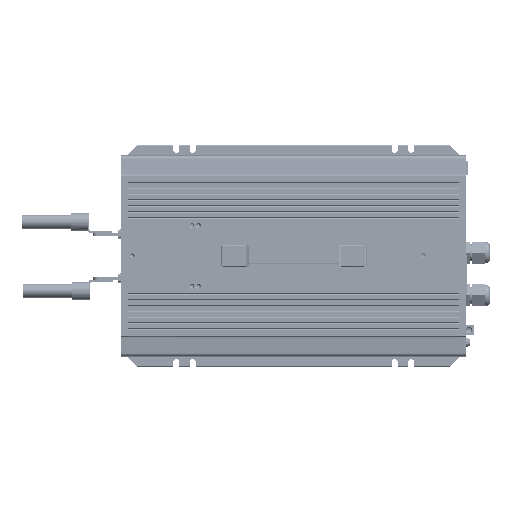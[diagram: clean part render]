
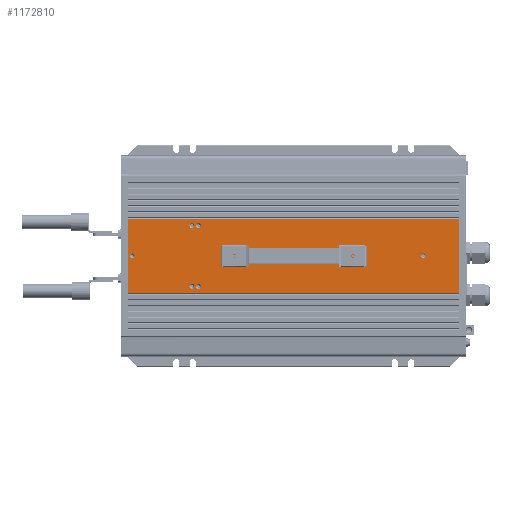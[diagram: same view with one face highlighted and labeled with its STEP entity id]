
A CAD part, top view. The second image highlights one B-rep face of the part: STEP entity #1172810.
In plain terms, the highlighted planar face has unit normal (0, 0, 1) as drawn and (0, 1, 0) by its records, which use the part's own axes.
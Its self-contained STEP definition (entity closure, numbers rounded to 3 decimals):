
#1150130=CARTESIAN_POINT('',(2078.449,98.104,-63.1));
#1150140=VERTEX_POINT('',#1150130);
#1150170=CARTESIAN_POINT('',(1988.299,98.104,-63.1));
#1150180=DIRECTION('',(1.,0.,0.));
#1150190=VECTOR('',#1150180,90.15);
#1150200=LINE('',#1150170,#1150190);
#1150210=CARTESIAN_POINT('',(1988.299,98.104,-63.1));
#1150220=VERTEX_POINT('',#1150210);
#1150230=EDGE_CURVE('',#1150220,#1150140,#1150200,.T.);
#1159110=CARTESIAN_POINT('',(1988.299,98.104,340.9));
#1159120=VERTEX_POINT('',#1159110);
#1159150=CARTESIAN_POINT('',(2078.449,98.104,340.9));
#1159160=DIRECTION('',(-1.,0.,0.));
#1159170=VECTOR('',#1159160,90.15);
#1159180=LINE('',#1159150,#1159170);
#1159190=CARTESIAN_POINT('',(2078.449,98.104,340.9));
#1159200=VERTEX_POINT('',#1159190);
#1159210=EDGE_CURVE('',#1159200,#1159120,#1159180,.T.);
#1170970=CARTESIAN_POINT('',(2036.374,98.104,296.9));
#1170980=VERTEX_POINT('',#1170970);
#1171010=CARTESIAN_POINT('',(2033.374,98.104,296.9));
#1171020=DIRECTION('',(0.,-1.,0.));
#1171030=DIRECTION('',(1.,0.,0.));
#1171040=AXIS2_PLACEMENT_3D('',#1171010,#1171020,#1171030);
#1171050=CIRCLE('',#1171040,3.);
#1171060=CARTESIAN_POINT('',(2030.374,98.104,296.9));
#1171070=VERTEX_POINT('',#1171060);
#1171080=EDGE_CURVE('',#1170980,#1171070,#1171050,.T.);
#1171460=CARTESIAN_POINT('',(2028.721,98.104,122.9));
#1171470=DIRECTION('',(0.,-1.,0.));
#1171480=DIRECTION('',(1.,0.,0.));
#1171490=AXIS2_PLACEMENT_3D('',#1171460,#1171470,#1171480);
#1171500=PLANE('',#1171490);
#1171510=CARTESIAN_POINT('',(2033.376,98.104,210.9));
#1171520=DIRECTION('',(0.,1.,0.));
#1171530=DIRECTION('',(0.,0.,1.));
#1171540=AXIS2_PLACEMENT_3D('',#1171510,#1171520,#1171530);
#1171550=CIRCLE('',#1171540,1.6);
#1171560=CARTESIAN_POINT('',(2033.376,98.104,212.5));
#1171570=VERTEX_POINT('',#1171560);
#1171580=CARTESIAN_POINT('',(2033.376,98.104,209.3));
#1171590=VERTEX_POINT('',#1171580);
#1171600=EDGE_CURVE('',#1171570,#1171590,#1171550,.T.);
#1171610=ORIENTED_EDGE('',*,*,#1171600,.F.);
#1171620=EDGE_CURVE('',#1171590,#1171570,#1171550,.T.);
#1171630=ORIENTED_EDGE('',*,*,#1171620,.F.);
#1171640=EDGE_LOOP('',(#1171630,#1171610));
#1171650=FACE_BOUND('',#1171640,.T.);
#1171660=CARTESIAN_POINT('',(1996.284,98.104,22.949
));
#1171670=DIRECTION('',(0.,1.,0.));
#1171680=DIRECTION('',(1.,0.,0.));
#1171690=AXIS2_PLACEMENT_3D('',#1171660,#1171670,#1171680);
#1171700=CIRCLE('',#1171690,3.);
#1171710=CARTESIAN_POINT('',(1999.284,98.104,22.949
));
#1171720=VERTEX_POINT('',#1171710);
#1171730=CARTESIAN_POINT('',(1993.284,98.104,22.949
));
#1171740=VERTEX_POINT('',#1171730);
#1171750=EDGE_CURVE('',#1171720,#1171740,#1171700,.T.);
#1171760=ORIENTED_EDGE('',*,*,#1171750,.F.);
#1171770=EDGE_CURVE('',#1171740,#1171720,#1171700,.T.);
#1171780=ORIENTED_EDGE('',*,*,#1171770,.F.);
#1171790=EDGE_LOOP('',(#1171780,#1171760));
#1171800=FACE_BOUND('',#1171790,.T.);
#1171810=EDGE_CURVE('',#1171070,#1170980,#1171050,.T.);
#1171820=ORIENTED_EDGE('',*,*,#1171810,.T.);
#1171830=ORIENTED_EDGE('',*,*,#1171080,.T.);
#1171840=EDGE_LOOP('',(#1171830,#1171820));
#1171850=FACE_BOUND('',#1171840,.T.);
#1171860=CARTESIAN_POINT('',(2033.376,98.104,-57.6));
#1171870=DIRECTION('',(0.,-1.,0.));
#1171880=DIRECTION('',(-1.,0.,0.));
#1171890=AXIS2_PLACEMENT_3D('',#1171860,#1171870,#1171880);
#1171900=CIRCLE('',#1171890,3.);
#1171910=CARTESIAN_POINT('',(2036.376,98.104,
-57.6));
#1171920=VERTEX_POINT('',#1171910);
#1171930=CARTESIAN_POINT('',(2030.376,98.104,
-57.6));
#1171940=VERTEX_POINT('',#1171930);
#1171950=EDGE_CURVE('',#1171920,#1171940,#1171900,.T.);
#1171960=ORIENTED_EDGE('',*,*,#1171950,.T.);
#1171970=EDGE_CURVE('',#1171940,#1171920,#1171900,.T.);
#1171980=ORIENTED_EDGE('',*,*,#1171970,.T.);
#1171990=EDGE_LOOP('',(#1171980,#1171960));
#1172000=FACE_BOUND('',#1171990,.T.);
#1172010=CARTESIAN_POINT('',(2070.318,98.104,14.949));
#1172020=DIRECTION('',(0.,1.,0.));
#1172030=DIRECTION('',(1.,0.,0.));
#1172040=AXIS2_PLACEMENT_3D('',#1172010,#1172020,#1172030);
#1172050=CIRCLE('',#1172040,3.);
#1172060=CARTESIAN_POINT('',(2067.318,98.104,14.949));
#1172070=VERTEX_POINT('',#1172060);
#1172080=CARTESIAN_POINT('',(2073.318,98.104,14.949));
#1172090=VERTEX_POINT('',#1172080);
#1172100=EDGE_CURVE('',#1172070,#1172090,#1172050,.T.);
#1172110=ORIENTED_EDGE('',*,*,#1172100,.F.);
#1172120=EDGE_CURVE('',#1172090,#1172070,#1172050,.T.);
#1172130=ORIENTED_EDGE('',*,*,#1172120,.F.);
#1172140=EDGE_LOOP('',(#1172130,#1172110));
#1172150=FACE_BOUND('',#1172140,.T.);
#1172160=CARTESIAN_POINT('',(1996.284,98.104,14.949
));
#1172170=DIRECTION('',(0.,1.,0.));
#1172180=DIRECTION('',(1.,0.,0.));
#1172190=AXIS2_PLACEMENT_3D('',#1172160,#1172170,#1172180);
#1172200=CIRCLE('',#1172190,3.);
#1172210=CARTESIAN_POINT('',(1995.513,98.104,12.05
));
#1172220=VERTEX_POINT('',#1172210);
#1172230=CARTESIAN_POINT('',(1993.284,98.104,14.949
));
#1172240=VERTEX_POINT('',#1172230);
#1172250=EDGE_CURVE('',#1172220,#1172240,#1172200,.T.);
#1172260=ORIENTED_EDGE('',*,*,#1172250,.F.);
#1172270=CARTESIAN_POINT('',(1999.284,98.104,14.949
));
#1172280=VERTEX_POINT('',#1172270);
#1172290=EDGE_CURVE('',#1172240,#1172280,#1172200,.T.);
#1172300=ORIENTED_EDGE('',*,*,#1172290,.F.);
#1172310=EDGE_CURVE('',#1172280,#1172220,#1172200,.T.);
#1172320=ORIENTED_EDGE('',*,*,#1172310,.F.);
#1172330=EDGE_LOOP('',(#1172320,#1172300,#1172260));
#1172340=FACE_BOUND('',#1172330,.T.);
#1172350=CARTESIAN_POINT('',(2070.318,98.104,22.949));
#1172360=DIRECTION('',(0.,1.,0.));
#1172370=DIRECTION('',(1.,0.,0.));
#1172380=AXIS2_PLACEMENT_3D('',#1172350,#1172360,#1172370);
#1172390=CIRCLE('',#1172380,3.);
#1172400=CARTESIAN_POINT('',(2067.318,98.104,22.949));
#1172410=VERTEX_POINT('',#1172400);
#1172420=CARTESIAN_POINT('',(2073.318,98.104,22.949));
#1172430=VERTEX_POINT('',#1172420);
#1172440=EDGE_CURVE('',#1172410,#1172430,#1172390,.T.);
#1172450=ORIENTED_EDGE('',*,*,#1172440,.F.);
#1172460=EDGE_CURVE('',#1172430,#1172410,#1172390,.T.);
#1172470=ORIENTED_EDGE('',*,*,#1172460,.F.);
#1172480=EDGE_LOOP('',(#1172470,#1172450));
#1172490=FACE_BOUND('',#1172480,.T.);
#1172500=CARTESIAN_POINT('',(2033.376,98.104,66.9));
#1172510=DIRECTION('',(0.,1.,0.));
#1172520=DIRECTION('',(0.,0.,1.));
#1172530=AXIS2_PLACEMENT_3D('',#1172500,#1172510,#1172520);
#1172540=CIRCLE('',#1172530,1.6);
#1172550=CARTESIAN_POINT('',(2033.376,98.104,68.5));
#1172560=VERTEX_POINT('',#1172550);
#1172570=CARTESIAN_POINT('',(2033.376,98.104,65.3));
#1172580=VERTEX_POINT('',#1172570);
#1172590=EDGE_CURVE('',#1172560,#1172580,#1172540,.T.);
#1172600=ORIENTED_EDGE('',*,*,#1172590,.F.);
#1172610=EDGE_CURVE('',#1172580,#1172560,#1172540,.T.);
#1172620=ORIENTED_EDGE('',*,*,#1172610,.F.);
#1172630=EDGE_LOOP('',(#1172620,#1172600));
#1172640=FACE_BOUND('',#1172630,.T.);
#1172650=ORIENTED_EDGE('',*,*,#1150230,.F.);
#1172660=CARTESIAN_POINT('',(2078.449,98.104,-63.1));
#1172670=DIRECTION('',(0.,0.,1.));
#1172680=VECTOR('',#1172670,404.);
#1172690=LINE('',#1172660,#1172680);
#1172700=EDGE_CURVE('',#1150140,#1159200,#1172690,.T.);
#1172710=ORIENTED_EDGE('',*,*,#1172700,.F.);
#1172720=ORIENTED_EDGE('',*,*,#1159210,.F.);
#1172730=CARTESIAN_POINT('',(1988.299,98.104,340.9));
#1172740=DIRECTION('',(0.,0.,-1.));
#1172750=VECTOR('',#1172740,404.);
#1172760=LINE('',#1172730,#1172750);
#1172770=EDGE_CURVE('',#1159120,#1150220,#1172760,.T.);
#1172780=ORIENTED_EDGE('',*,*,#1172770,.F.);
#1172790=EDGE_LOOP('',(#1172780,#1172720,#1172710,#1172650));
#1172800=FACE_OUTER_BOUND('',#1172790,.T.);
#1172810=ADVANCED_FACE('',(#1171650,#1171800,#1171850,#1172000,#1172150,
#1172340,#1172490,#1172640,#1172800),#1171500,.F.);
